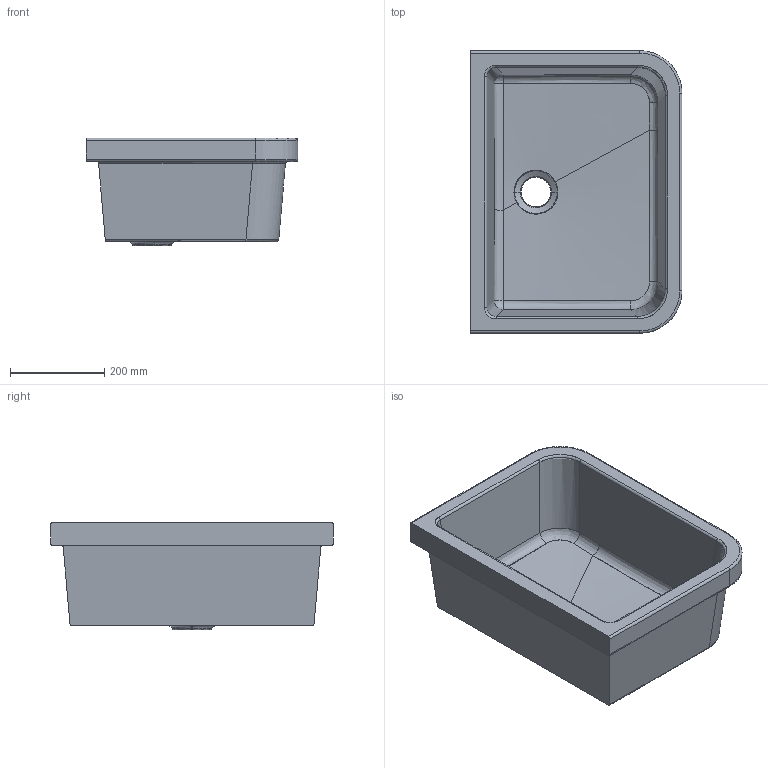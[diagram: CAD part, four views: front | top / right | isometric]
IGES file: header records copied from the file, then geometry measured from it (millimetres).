
Start section: START RECORD GO HERE.
Global section: file name: 3002_3D.igs; native system: DASSAULT SYSTEMES CATIA V5 R19 - www.3ds.com; preprocessor: CATIA Version 5 Release 19 SP 5 ; author: gioge; organization: LAPTOP-G94B6G74; date: 20201024.092247; units: millimetre
Bounding box: 450 x 600 x 229 mm (x, y, z)
Surface area: 1183446.6 mm2 (no closed solid volume)
Topology: 0 solids, 0 shells, 78 faces, 352 edges, 352 vertices
Faces by surface type: bspline 36, revolution 34, plane 8
